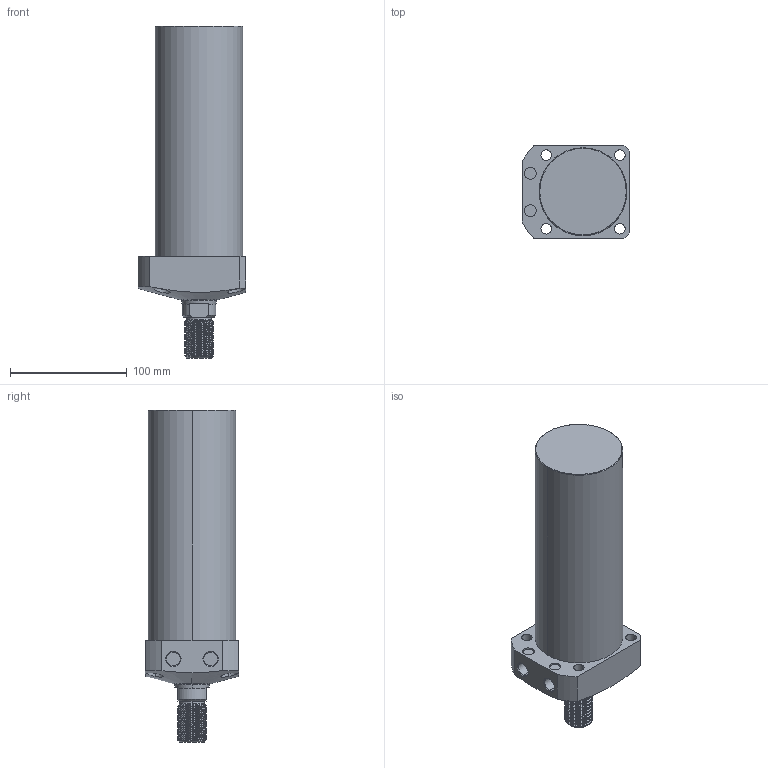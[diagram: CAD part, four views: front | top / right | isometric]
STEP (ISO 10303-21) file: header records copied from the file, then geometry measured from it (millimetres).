
FILE_DESCRIPTION (( 'STEP AP203' ), '1' );
FILE_NAME ('CLL-075CT-160.STEP', '2020-01-08T12:13:21', ( '' ), ( '' ), 'SwSTEP 2.0', 'SolidWorks 2015', '' );
FILE_SCHEMA (( 'CONFIG_CONTROL_DESIGN' ));
Length unit declared in the file: millimetre
Products named in the file (1): CLL-075CT-160
Bounding box: 92 x 80 x 284 mm (x, y, z)
Volume: 1111532 mm3; surface area: 81251.6 mm2
Topology: 1 solids, 1 shells, 121 faces, 310 edges, 202 vertices
Faces by surface type: cylinder 77, plane 23, cone 17, torus 2, bspline 2
Entity records: 6537 total; most frequent: CARTESIAN_POINT 3747, ORIENTED_EDGE 620, DIRECTION 517, EDGE_CURVE 310, AXIS2_PLACEMENT_3D 204, VERTEX_POINT 202, EDGE_LOOP 140, FACE_OUTER_BOUND 121
